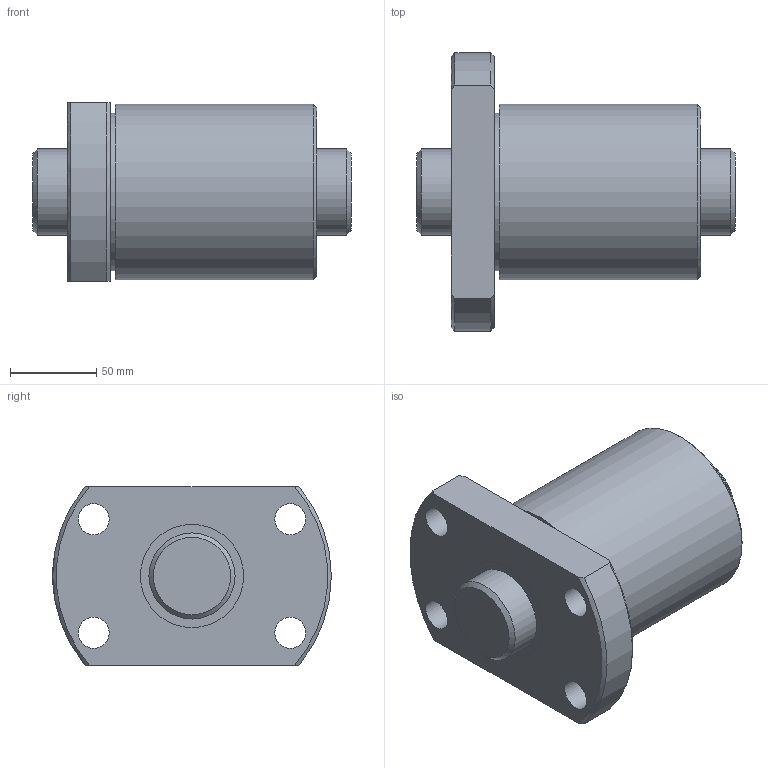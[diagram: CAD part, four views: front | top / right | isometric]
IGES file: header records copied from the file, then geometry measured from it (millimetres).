
Start section: Data from Parasolid IGES Translator 26.0.171, Copyright(c) 2006 Siemens PLM Software. All Rights Reserved.
Global section: file name: BTK5016V-5.3ZZ+185LC7T_000.igs; native system: By Siemens PLM Incorporated; preprocessor: XPlus GENERIC/IGES 26.0.171; author: Noname; organization: Noname; date: 20250116.075851; units: millimetre
Bounding box: 185 x 162 x 104 mm (x, y, z)
Surface area: 139988.4 mm2 (no closed solid volume)
Topology: 0 solids, 0 shells, 32 faces, 142 edges, 125 vertices
Faces by surface type: revolution 22, extrusion 10
